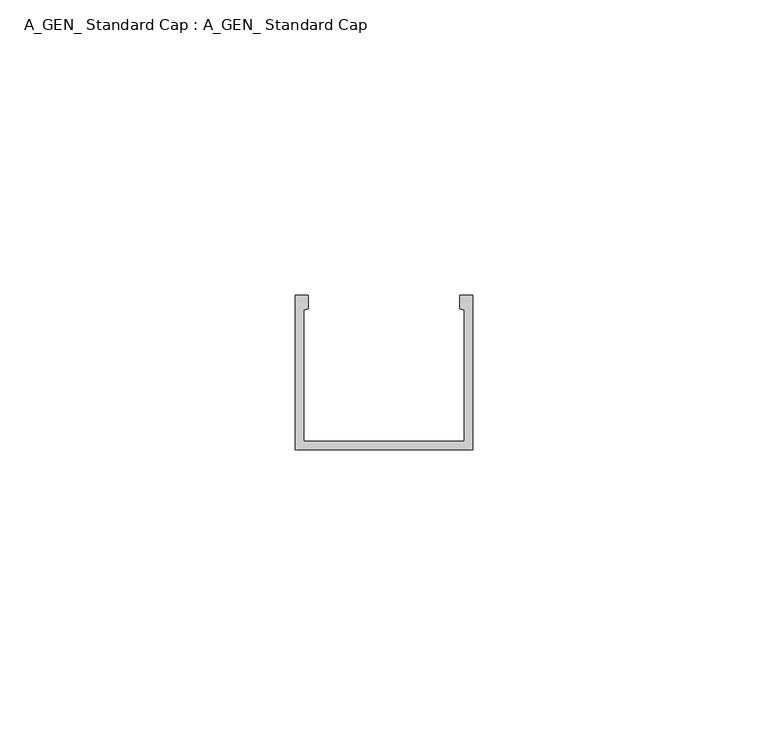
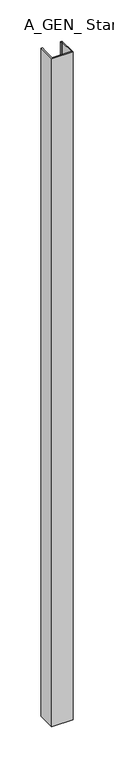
"""IFC4 building model written with IfcOpenShell, lengths in millimetres: proxy geometry, A_GEN_ Standard Cap : A_GEN_ Standard Cap."""

from ifc_helpers import new_model, si_unit, origin, origin_with_axes, place, context, project, spatial, polyline, outline, extrude, source, transform, mapped, element, save


def a_gen_standard_cap_a_gen_standard_cap_49eb2330(model_context):
    return source(origin(), model_context, "Body", "SweptSolid", [
        extrude(outline(polyline([(0.0, -26.1007192), (0.0, 0.0), (2.149007, 0.0), (2.149007, -2.2419727), (1.4, -2.4826662), (1.4, -24.7007192), (28.6, -24.7007192), (28.6, -2.4826662), (27.850993, -2.2419727), (27.850993, 0.0), (30.0, 0.0), (30.0, -26.1007192), (0.0, -26.1007192)])), origin_with_axes(), (0.0, 0.0, 1.0), 992.5516144),
    ])


if __name__ == "__main__":
    model = new_model("IFC4")
    model_context = context("Model", 3, world=origin())
    ifc_project = project(units=[si_unit("LENGTHUNIT", "METRE", prefix="MILLI")], contexts=[model_context])
    site = spatial("IfcSite", under=ifc_project)
    building = spatial("IfcBuilding", under=site)
    placement = place(None, origin())
    a_gen_standard_cap_a_gen_standard_cap_shape = a_gen_standard_cap_a_gen_standard_cap_49eb2330(model_context)
    element("IfcBuildingElementProxy", 1, Name="A_GEN_ Standard Cap : A_GEN_ Standard Cap", ObjectType="A_GEN_ Standard Cap : A_GEN_ Standard Cap", at=placement, inside=building, context=model_context, shape_type="MappedRepresentation", body=[
        mapped(a_gen_standard_cap_a_gen_standard_cap_shape, transform((0.0, 0.0, 0.0), x_axis=(1.0, 0.0, 0.0), y_axis=(0.0, 1.0, 0.0), z_axis=(0.0, 0.0, 1.0))),
    ])
    save(model, "model.ifc")
